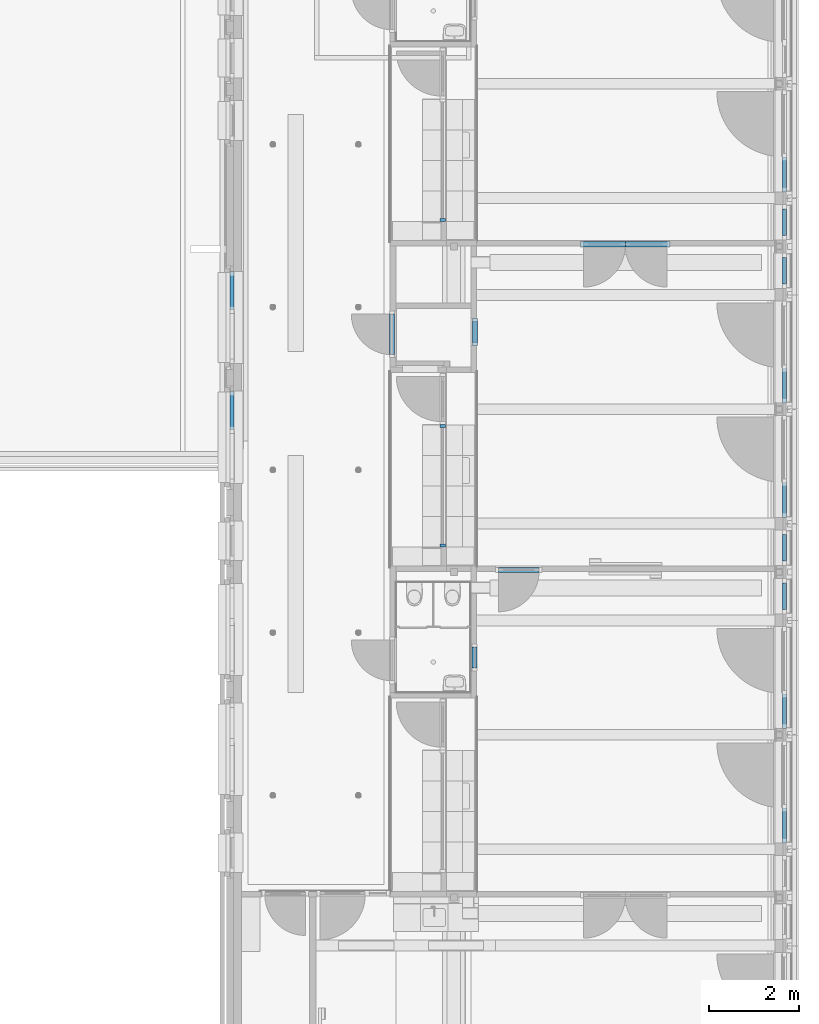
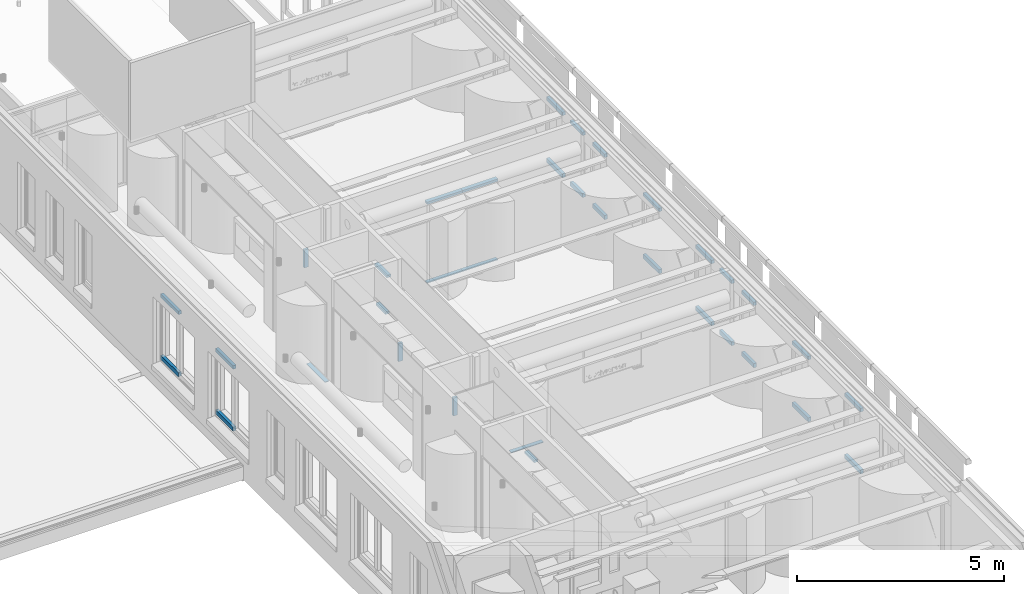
# One storey, part 25 of 128: 34 members, 18 elements without a shape of their own.
"""IFC2X3 building model written with IfcOpenShell, lengths in millimetres."""

from ifc_helpers import new_model, entity, si_unit, converted_unit, derived_unit, direction, frame, frame_2d, origin, origin_2d_with_axis, place, context, subcontext, project, spatial, rectangle, extrude, source, transform, mapped, material, type_object, type_shapes, element, aggregate, save


model = new_model("IFC2X3")

# Units and contexts
model_context = context("Model", 3, precision=0.01, world=origin(), true_north=direction((6.123031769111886e-17, 1.0)))
body_context = subcontext(model_context, "Body", "Model", "MODEL_VIEW")
ifc_project = project(units=[si_unit("LENGTHUNIT", "METRE", prefix="MILLI"), si_unit("AREAUNIT", "SQUARE_METRE"), si_unit("VOLUMEUNIT", "CUBIC_METRE"), converted_unit("PLANEANGLEUNIT", "DEGREE", entity("IfcRatioMeasure", 0.017453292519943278), si_unit("PLANEANGLEUNIT", "RADIAN"), dimensions=[0, 0, 0, 0, 0, 0, 0]), si_unit("MASSUNIT", "GRAM", prefix="KILO"), derived_unit("MASSDENSITYUNIT", [(si_unit("MASSUNIT", "GRAM", prefix="KILO"), 1), (si_unit("LENGTHUNIT", "METRE"), -3)]), derived_unit("IONCONCENTRATIONUNIT", [(si_unit("MASSUNIT", "GRAM", prefix="KILO"), 1), (si_unit("LENGTHUNIT", "METRE"), -3)]), derived_unit("MOMENTOFINERTIAUNIT", [(si_unit("LENGTHUNIT", "METRE"), 4)]), si_unit("TIMEUNIT", "SECOND"), si_unit("FREQUENCYUNIT", "HERTZ"), si_unit("THERMODYNAMICTEMPERATUREUNIT", "DEGREE_CELSIUS"), derived_unit("THERMALTRANSMITTANCEUNIT", [(si_unit("MASSUNIT", "GRAM", prefix="KILO"), 1), (si_unit("THERMODYNAMICTEMPERATUREUNIT", "KELVIN"), -1), (si_unit("TIMEUNIT", "SECOND"), -3)]), derived_unit("THERMALCONDUCTANCEUNIT", [(si_unit("MASSUNIT", "GRAM", prefix="KILO"), 1), (si_unit("THERMODYNAMICTEMPERATUREUNIT", "KELVIN"), -1), (si_unit("TIMEUNIT", "SECOND"), -3), (si_unit("LENGTHUNIT", "METRE"), 1)]), derived_unit("VOLUMETRICFLOWRATEUNIT", [(si_unit("LENGTHUNIT", "METRE"), 3), (si_unit("TIMEUNIT", "SECOND"), -1)]), derived_unit("MASSFLOWRATEUNIT", [(si_unit("MASSUNIT", "GRAM", prefix="KILO"), 1), (si_unit("TIMEUNIT", "SECOND"), -1)]), derived_unit("ROTATIONALFREQUENCYUNIT", [(si_unit("TIMEUNIT", "SECOND"), -1)]), si_unit("ELECTRICCURRENTUNIT", "AMPERE"), si_unit("ELECTRICVOLTAGEUNIT", "VOLT"), si_unit("POWERUNIT", "WATT"), si_unit("FORCEUNIT", "NEWTON", prefix="KILO"), si_unit("ILLUMINANCEUNIT", "LUX"), si_unit("LUMINOUSFLUXUNIT", "LUMEN"), si_unit("LUMINOUSINTENSITYUNIT", "CANDELA"), derived_unit("USERDEFINED", [(si_unit("MASSUNIT", "GRAM", prefix="KILO"), -1), (si_unit("LENGTHUNIT", "METRE"), -2), (si_unit("TIMEUNIT", "SECOND"), 3), (si_unit("LUMINOUSFLUXUNIT", "LUMEN"), 1)]), derived_unit("USERDEFINED", [(si_unit("MASSUNIT", "GRAM", prefix="KILO"), 1), (si_unit("TIMEUNIT", "SECOND"), -3), (si_unit("LENGTHUNIT", "METRE"), 3), (si_unit("ELECTRICCURRENTUNIT", "AMPERE"), -2)]), derived_unit("SOUNDPOWERUNIT", [(si_unit("MASSUNIT", "GRAM", prefix="KILO"), 1), (si_unit("TIMEUNIT", "SECOND"), -3), (si_unit("LENGTHUNIT", "METRE"), 2)]), derived_unit("SOUNDPRESSUREUNIT", [(si_unit("MASSUNIT", "GRAM", prefix="KILO"), 1), (si_unit("LENGTHUNIT", "METRE"), -1), (si_unit("TIMEUNIT", "SECOND"), -2)]), derived_unit("LINEARVELOCITYUNIT", [(si_unit("LENGTHUNIT", "METRE"), 1), (si_unit("TIMEUNIT", "SECOND"), -1)]), si_unit("PRESSUREUNIT", "PASCAL"), derived_unit("USERDEFINED", [(si_unit("MASSUNIT", "GRAM", prefix="KILO"), 1), (si_unit("LENGTHUNIT", "METRE"), -2), (si_unit("TIMEUNIT", "SECOND"), -2)]), derived_unit("LINEARFORCEUNIT", [(si_unit("MASSUNIT", "GRAM", prefix="KILO"), 1), (si_unit("TIMEUNIT", "SECOND"), -2)]), derived_unit("PLANARFORCEUNIT", [(si_unit("MASSUNIT", "GRAM", prefix="KILO"), 1), (si_unit("LENGTHUNIT", "METRE"), -1), (si_unit("TIMEUNIT", "SECOND"), -2)]), derived_unit("SPECIFICHEATCAPACITYUNIT", [(si_unit("THERMODYNAMICTEMPERATUREUNIT", "KELVIN"), -1), (si_unit("LENGTHUNIT", "METRE"), 2), (si_unit("TIMEUNIT", "SECOND"), -2)]), derived_unit("HEATINGVALUEUNIT", [(si_unit("LENGTHUNIT", "METRE"), 2), (si_unit("TIMEUNIT", "SECOND"), -2)]), derived_unit("VAPORPERMEABILITYUNIT", [(si_unit("LENGTHUNIT", "METRE"), -1), (si_unit("TIMEUNIT", "SECOND"), 1)]), derived_unit("DYNAMICVISCOSITYUNIT", [(si_unit("MASSUNIT", "GRAM", prefix="KILO"), 1), (si_unit("TIMEUNIT", "SECOND"), -1), (si_unit("LENGTHUNIT", "METRE"), -1)]), derived_unit("THERMALEXPANSIONCOEFFICIENTUNIT", [(si_unit("THERMODYNAMICTEMPERATUREUNIT", "KELVIN"), -1)]), derived_unit("MODULUSOFELASTICITYUNIT", [(si_unit("MASSUNIT", "GRAM", prefix="KILO"), 1), (si_unit("LENGTHUNIT", "METRE"), -1), (si_unit("TIMEUNIT", "SECOND"), -2)]), derived_unit("ISOTHERMALMOISTURECAPACITYUNIT", [(si_unit("LENGTHUNIT", "METRE"), 3), (si_unit("MASSUNIT", "GRAM", prefix="KILO"), -1)]), derived_unit("MOISTUREDIFFUSIVITYUNIT", [(si_unit("TIMEUNIT", "SECOND"), -1), (si_unit("LENGTHUNIT", "METRE"), 2)])], contexts=[model_context])

# Site, building, storey
site_placement = place(None, frame((0.0, 300.0, 0.0)))
site = spatial("IfcSite", under=ifc_project, at=site_placement, Name="<Kadastrale nummers>", CompositionType="ELEMENT")
building_placement = place(site_placement, origin())
building = spatial("IfcBuilding", under=site, at=building_placement, CompositionType="ELEMENT")
storey_placement = place(building_placement, frame((0.0, 0.0, 3560.0000331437)))
storey = spatial("IfcBuildingStorey", under=building, at=storey_placement, Name="01 eerste verdieping", CompositionType="ELEMENT", Elevation=3560.0000331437)

# Curtain wall, member
curtain_wall_type_1 = type_object("IfcCurtainWallType", Name="Curtain Wall:Merk H01", PredefinedType="NOTDEFINED")
curtain_wall_1_placement = place(storey_placement, frame((0.0, 0.0, -3560.0000331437)))
curtain_wall_1 = element("IfcCurtainWall", 1, at=curtain_wall_1_placement, inside=storey, type_object=curtain_wall_type_1, Name="Curtain Wall:Merk H01", ObjectType="Curtain Wall:Merk H01")
ifc_material_1 = material(Name="ISR_Kunststof_grijs")
member_type_1 = type_object("IfcMemberType", Name="Rectangular Mullion:31_CWM_020x114", PredefinedType="MULLION", material=ifc_material_1)
shared_shape_1 = source(origin(), body_context, "Body", "SweptSolid", [
    extrude(rectangle(XDim=113.99999999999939, YDim=20.0, at=origin_2d_with_axis()), frame((-10.0, -57.0, -900.0), z_axis=(0.0, 0.0, 1.0), x_axis=(0.0, -1.0, 0.0)), (0.0, 0.0, 1.0), 899.999999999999),
])
type_shapes(member_type_1, [shared_shape_1])
member_1_placement = place(curtain_wall_1_placement, frame((40084.0, 21306.997246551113, 3650.00003501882), z_axis=(0.0, -1.0, 0.0), x_axis=(0.0, 0.0, -1.0)))
member_1 = element("IfcMember", 2, at=member_1_placement, type_object=member_type_1, material=ifc_material_1, Name="Rectangular Mullion:31_CWM_020x114", ObjectType="Rectangular Mullion:31_CWM_020x114", context=body_context, shape_type="MappedRepresentation", body=[
    mapped(shared_shape_1, transform((0.0, 0.0, 0.0), scale=1.0)),
])
aggregate(curtain_wall_1, [member_1])

curtain_wall_type_2 = type_object("IfcCurtainWallType", Name="Curtain Wall:Merk H16", PredefinedType="NOTDEFINED")
curtain_wall_2_placement = place(storey_placement, frame((0.0, 0.0, -3560.0000331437)))
curtain_wall_2 = element("IfcCurtainWall", 3, at=curtain_wall_2_placement, inside=storey, type_object=curtain_wall_type_2, Name="Curtain Wall:Merk H16", ObjectType="Curtain Wall:Merk H16")
member_2_placement = place(curtain_wall_2_placement, frame((43284.50000000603, 16603.998623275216, 3650.000035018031), z_axis=(1.0, 0.0, 0.0), x_axis=(0.0, 0.0, -1.0)))
member_2 = element("IfcMember", 4, at=member_2_placement, type_object=member_type_1, material=ifc_material_1, Name="Rectangular Mullion:31_CWM_020x114", ObjectType="Rectangular Mullion:31_CWM_020x114", context=body_context, shape_type="MappedRepresentation", body=[
    mapped(shared_shape_1, transform((0.0, 0.0, 0.0), scale=1.0)),
])
aggregate(curtain_wall_2, [member_2])

# Curtain wall, members
curtain_wall_type_3 = type_object("IfcCurtainWallType", Name="Curtain Wall:Merk H07", PredefinedType="NOTDEFINED")
curtain_wall_3_placement = place(storey_placement, frame((0.0, 0.0, -3560.0000331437)))
curtain_wall_3 = element("IfcCurtainWall", 5, at=curtain_wall_3_placement, inside=storey, type_object=curtain_wall_type_3, Name="Curtain Wall:Merk H07", ObjectType="Curtain Wall:Merk H07")
ifc_material_2 = material(Name="ISR_HPL")
member_type_2 = type_object("IfcMemberType", Name="Rectangular Mullion:31_CWM_067x114", PredefinedType="MULLION", material=ifc_material_2)
shared_shape_2 = source(origin(), body_context, "Body", "SweptSolid", [
    extrude(rectangle(XDim=113.99999999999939, YDim=67.0, at=origin_2d_with_axis()), frame((-33.5, 57.0, -990.0), z_axis=(0.0, 0.0, 1.0), x_axis=(0.0, -1.0, 0.0)), (0.0, 0.0, 1.0), 989.9999999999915),
])
type_shapes(member_type_2, [shared_shape_2])
member_3_placement = place(curtain_wall_3_placement, frame((46180.0, 23808.99862327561, 6040.0000331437), z_axis=(1.0, 0.0, 0.0), x_axis=(0.0, 0.0, 1.0)))
member_3 = element("IfcMember", 6, at=member_3_placement, type_object=member_type_2, material=ifc_material_2, Name="Rectangular Mullion:31_CWM_067x114", ObjectType="Rectangular Mullion:31_CWM_067x114", context=body_context, shape_type="MappedRepresentation", body=[
    mapped(shared_shape_2, transform((0.0, 0.0, 0.0), scale=1.0)),
])
member_type_3 = type_object("IfcMemberType", Name="Rectangular Mullion:31_CWM_020x114", PredefinedType="MULLION", material=ifc_material_1)
shared_shape_3 = source(origin(), body_context, "Body", "SweptSolid", [
    extrude(rectangle(XDim=113.99999999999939, YDim=20.0, at=origin_2d_with_axis()), frame((-10.0, 57.0, -990.0), z_axis=(0.0, 0.0, 1.0), x_axis=(0.0, -1.0, 0.0)), (0.0, 0.0, 1.0), 990.0000000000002),
])
type_shapes(member_type_3, [shared_shape_3])
member_4_placement = place(curtain_wall_3_placement, frame((44200.0, 23808.998623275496, 3650.000035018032), z_axis=(-1.0, 0.0, 0.0), x_axis=(0.0, 0.0, -1.0)))
member_4 = element("IfcMember", 7, at=member_4_placement, type_object=member_type_3, material=ifc_material_1, Name="Rectangular Mullion:31_CWM_020x114", ObjectType="Rectangular Mullion:31_CWM_020x114", context=body_context, shape_type="MappedRepresentation", body=[
    mapped(shared_shape_3, transform((0.0, 0.0, 0.0), scale=1.0)),
])
member_type_4 = type_object("IfcMemberType", Name="Rectangular Mullion:31_CWM_067x114", PredefinedType="MULLION", material=ifc_material_2)
shared_shape_4 = source(origin(), body_context, "Body", "SweptSolid", [
    extrude(rectangle(XDim=113.99999999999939, YDim=67.0, at=origin_2d_with_axis()), frame((-33.5, 57.0, -990.0), z_axis=(0.0, 0.0, 1.0), x_axis=(0.0, -1.0, 0.0)), (0.0, 0.0, 1.0), 989.9999999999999),
])
type_shapes(member_type_4, [shared_shape_4])
member_5_placement = place(curtain_wall_3_placement, frame((45190.0, 23808.998623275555, 6040.0000331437), z_axis=(1.0, 0.0, 0.0), x_axis=(0.0, 0.0, 1.0)))
member_5 = element("IfcMember", 8, at=member_5_placement, type_object=member_type_4, material=ifc_material_2, Name="Rectangular Mullion:31_CWM_067x114", ObjectType="Rectangular Mullion:31_CWM_067x114", context=body_context, shape_type="MappedRepresentation", body=[
    mapped(shared_shape_4, transform((0.0, 0.0, 0.0), scale=1.0)),
])
member_type_5 = type_object("IfcMemberType", Name="Rectangular Mullion:31_CWM_020x114", PredefinedType="MULLION", material=ifc_material_1)
shared_shape_5 = source(origin(), body_context, "Body", "SweptSolid", [
    extrude(rectangle(XDim=113.99999999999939, YDim=20.0, at=origin_2d_with_axis()), frame((-10.0, 57.0, -990.0), z_axis=(0.0, 0.0, 1.0), x_axis=(0.0, -1.0, 0.0)), (0.0, 0.0, 1.0), 989.9999999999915),
])
type_shapes(member_type_5, [shared_shape_5])
member_6_placement = place(curtain_wall_3_placement, frame((45190.0, 23808.998623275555, 3650.000035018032), z_axis=(-1.0, 0.0, 0.0), x_axis=(0.0, 0.0, -1.0)))
member_6 = element("IfcMember", 9, at=member_6_placement, type_object=member_type_5, material=ifc_material_1, Name="Rectangular Mullion:31_CWM_020x114", ObjectType="Rectangular Mullion:31_CWM_020x114", context=body_context, shape_type="MappedRepresentation", body=[
    mapped(shared_shape_5, transform((0.0, 0.0, 0.0), scale=1.0)),
])
aggregate(curtain_wall_3, [member_3, member_4, member_5, member_6])

# Curtain wall, member
curtain_wall_type_4 = type_object("IfcCurtainWallType", Name="Curtain Wall:Merk H08", PredefinedType="NOTDEFINED")
curtain_wall_4_placement = place(storey_placement, frame((0.0, 0.0, -3560.0000331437)))
curtain_wall_4 = element("IfcCurtainWall", 10, at=curtain_wall_4_placement, inside=storey, type_object=curtain_wall_type_4, Name="Curtain Wall:Merk H08", ObjectType="Curtain Wall:Merk H08")
member_type_6 = type_object("IfcMemberType", Name="Rectangular Mullion:31_CWM_067x114", PredefinedType="MULLION", material=ifc_material_2)
shared_shape_6 = source(origin(), body_context, "Body", "SweptSolid", [
    extrude(rectangle(XDim=113.99999999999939, YDim=67.0, at=origin_2d_with_axis()), frame((-33.5, -57.0, -533.0), z_axis=(0.0, 0.0, 1.0), x_axis=(0.0, -1.0, 0.0)), (0.0, 0.0, 1.0), 533.0000000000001),
])
type_shapes(member_type_6, [shared_shape_6])
member_7_placement = place(curtain_wall_4_placement, frame((41209.0, 19760.997246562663, 4850.0000331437), z_axis=(0.0, 0.0, -1.0), x_axis=(0.0, 1.0, 0.0)))
member_7 = element("IfcMember", 11, at=member_7_placement, type_object=member_type_6, material=ifc_material_2, Name="Rectangular Mullion:31_CWM_067x114", ObjectType="Rectangular Mullion:31_CWM_067x114", context=body_context, shape_type="MappedRepresentation", body=[
    mapped(shared_shape_6, transform((0.0, 0.0, 0.0), scale=1.0)),
])

curtain_wall_5_placement = place(storey_placement, frame((0.0, 0.0, -3560.0000331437)))
curtain_wall_5 = element("IfcCurtainWall", 12, at=curtain_wall_5_placement, inside=storey, type_object=curtain_wall_type_4, Name="Curtain Wall:Merk H08", ObjectType="Curtain Wall:Merk H08")
member_type_7 = type_object("IfcMemberType", Name="Rectangular Mullion:31_CWM_067x114", PredefinedType="MULLION", material=ifc_material_2)
shared_shape_7 = source(origin(), body_context, "Body", "SweptSolid", [
    extrude(rectangle(XDim=113.9999999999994, YDim=67.0, at=frame_2d((1.0658141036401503e-14, 0.0), x_axis=(1.0, 0.0))), frame((-33.5, -57.0, -533.0), z_axis=(0.0, 0.0, 1.0), x_axis=(0.0, -1.0, 0.0)), (0.0, 0.0, 1.0), 533.0000000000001),
])
type_shapes(member_type_7, [shared_shape_7])
member_8_placement = place(curtain_wall_5_placement, frame((41209.0, 24250.99862328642, 5383.0000331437), z_axis=(0.0, 0.0, 1.0), x_axis=(0.0, -1.0, 0.0)))
member_8 = element("IfcMember", 13, at=member_8_placement, type_object=member_type_7, material=ifc_material_2, Name="Rectangular Mullion:31_CWM_067x114", ObjectType="Rectangular Mullion:31_CWM_067x114", context=body_context, shape_type="MappedRepresentation", body=[
    mapped(shared_shape_7, transform((0.0, 0.0, 0.0), scale=1.0)),
])
aggregate(curtain_wall_5, [member_8])

# Member
member_9_placement = place(curtain_wall_4_placement, frame((41209.0, 17050.997246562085, 5383.0000331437), z_axis=(0.0, 0.0, 1.0), x_axis=(0.0, -1.0, 0.0)))
member_9 = element("IfcMember", 14, at=member_9_placement, type_object=member_type_7, material=ifc_material_2, Name="Rectangular Mullion:31_CWM_067x114", ObjectType="Rectangular Mullion:31_CWM_067x114", context=body_context, shape_type="MappedRepresentation", body=[
    mapped(shared_shape_7, transform((0.0, 0.0, 0.0), scale=1.0)),
])

aggregate(curtain_wall_4, [member_7, member_9])

# Curtain wall, members
curtain_wall_type_5 = type_object("IfcCurtainWallType", Name="Curtain Wall:Merk H05", PredefinedType="NOTDEFINED")
curtain_wall_6_placement = place(storey_placement, frame((0.0, 0.0, -3560.0000331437)))
curtain_wall_6 = element("IfcCurtainWall", 15, at=curtain_wall_6_placement, inside=storey, type_object=curtain_wall_type_5, Name="Curtain Wall:Merk H05", ObjectType="Curtain Wall:Merk H05")
member_type_8 = type_object("IfcMemberType", Name="Rectangular Mullion:31_CWM_067x114", PredefinedType="MULLION", material=ifc_material_2)
shared_shape_8 = source(origin(), body_context, "Body", "SweptSolid", [
    extrude(rectangle(XDim=113.99999999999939, YDim=67.0, at=origin_2d_with_axis()), frame((-33.5, 57.0, -600.0), z_axis=(0.0, 0.0, 1.0), x_axis=(0.0, -1.0, 0.0)), (0.0, 0.0, 1.0), 600.0000000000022),
])
type_shapes(member_type_8, [shared_shape_8])
member_10_placement = place(curtain_wall_6_placement, frame((41811.0, 22109.997246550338, 6040.0000331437), z_axis=(0.0, 1.0, 0.0), x_axis=(0.0, 0.0, 1.0)))
member_10 = element("IfcMember", 16, at=member_10_placement, type_object=member_type_8, material=ifc_material_2, Name="Rectangular Mullion:31_CWM_067x114", ObjectType="Rectangular Mullion:31_CWM_067x114", context=body_context, shape_type="MappedRepresentation", body=[
    mapped(shared_shape_8, transform((0.0, 0.0, 0.0), scale=1.0)),
])
member_type_9 = type_object("IfcMemberType", Name="Rectangular Mullion:31_CWM_067x114", PredefinedType="MULLION", material=ifc_material_2)
shared_shape_9 = source(origin(), body_context, "Body", "SweptSolid", [
    extrude(rectangle(XDim=113.99999999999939, YDim=67.0, at=origin_2d_with_axis()), frame((-33.5, 57.0, -466.0), z_axis=(0.0, 0.0, 1.0), x_axis=(0.0, -1.0, 0.0)), (0.0, 0.0, 1.0), 466.00000000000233),
])
type_shapes(member_type_9, [shared_shape_9])
member_11_placement = place(curtain_wall_6_placement, frame((41811.0, 21576.997246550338, 4850.0000331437), z_axis=(0.0, -1.0, 0.0), x_axis=(0.0, 0.0, -1.0)))
member_11 = element("IfcMember", 17, at=member_11_placement, type_object=member_type_9, material=ifc_material_2, Name="Rectangular Mullion:31_CWM_067x114", ObjectType="Rectangular Mullion:31_CWM_067x114", context=body_context, shape_type="MappedRepresentation", body=[
    mapped(shared_shape_9, transform((0.0, 0.0, 0.0), scale=1.0)),
])
aggregate(curtain_wall_6, [member_10, member_11])

# Curtain wall, member
curtain_wall_7_placement = place(storey_placement, frame((0.0, 0.0, -3560.0000331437)))
curtain_wall_7 = element("IfcCurtainWall", 18, at=curtain_wall_7_placement, inside=storey, type_object=curtain_wall_type_5, Name="Curtain Wall:Merk H05", ObjectType="Curtain Wall:Merk H05")
member_12_placement = place(curtain_wall_7_placement, frame((41801.0, 14376.998623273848, 4850.0000331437), z_axis=(0.0, -1.0, 0.0), x_axis=(0.0, 0.0, -1.0)))
member_12 = element("IfcMember", 19, at=member_12_placement, type_object=member_type_9, material=ifc_material_2, Name="Rectangular Mullion:31_CWM_067x114", ObjectType="Rectangular Mullion:31_CWM_067x114", context=body_context, shape_type="MappedRepresentation", body=[
    mapped(shared_shape_9, transform((0.0, 0.0, 0.0), scale=1.0)),
])
aggregate(curtain_wall_7, [member_12])

curtain_wall_type_6 = type_object("IfcCurtainWallType", Name="Curtain Wall:K_29", PredefinedType="NOTDEFINED")
curtain_wall_8_placement = place(storey_placement, frame((0.0, 0.0, -3560.0000331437)))
curtain_wall_8 = element("IfcCurtainWall", 20, at=curtain_wall_8_placement, inside=storey, type_object=curtain_wall_type_6, Name="Curtain Wall:K_29", ObjectType="Curtain Wall:K_29")
ifc_material_3 = material(Name="ISR_Kunststof_RAL7006")
member_type_10 = type_object("IfcMemberType", Name="Rectangular Mullion:100x83 Gealan Kubus", PredefinedType="MULLION", material=ifc_material_3)
shared_shape_10 = source(origin(), body_context, "Body", "SweptSolid", [
    extrude(rectangle(XDim=83.0, YDim=100.0, at=origin_2d_with_axis()), frame((-50.0, 41.5, -590.0), z_axis=(0.0, 0.0, 1.0), x_axis=(0.0, -1.0, 0.0)), (0.0, 0.0, 1.0), 590.0000000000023),
])
type_shapes(member_type_10, [shared_shape_10])
member_13_placement = place(curtain_wall_8_placement, frame((48668.0, 24530.0, 6390.0), z_axis=(0.0, 1.0, 0.0), x_axis=(0.0, 0.0, 1.0)))
member_13 = element("IfcMember", 21, at=member_13_placement, type_object=member_type_10, material=ifc_material_3, Name="Rectangular Mullion:100x83 Gealan Kubus", ObjectType="Rectangular Mullion:100x83 Gealan Kubus", context=body_context, shape_type="MappedRepresentation", body=[
    mapped(shared_shape_10, transform((0.0, 0.0, 0.0), scale=1.0)),
])

curtain_wall_9_placement = place(storey_placement, frame((0.0, 0.0, -3560.0000331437)))
curtain_wall_9 = element("IfcCurtainWall", 22, at=curtain_wall_9_placement, inside=storey, type_object=curtain_wall_type_6, Name="Curtain Wall:K_29", ObjectType="Curtain Wall:K_29")
member_14_placement = place(curtain_wall_9_placement, frame((48668.0, 23460.0, 6390.0), z_axis=(0.0, 1.0, 0.0), x_axis=(0.0, 0.0, 1.0)))
member_14 = element("IfcMember", 23, at=member_14_placement, type_object=member_type_10, material=ifc_material_3, Name="Rectangular Mullion:100x83 Gealan Kubus", ObjectType="Rectangular Mullion:100x83 Gealan Kubus", context=body_context, shape_type="MappedRepresentation", body=[
    mapped(shared_shape_10, transform((0.0, 0.0, 0.0), scale=1.0)),
])

curtain_wall_10_placement = place(storey_placement, frame((0.0, 0.0, -3560.0000331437)))
curtain_wall_10 = element("IfcCurtainWall", 24, at=curtain_wall_10_placement, inside=storey, type_object=curtain_wall_type_6, Name="Curtain Wall:K_29", ObjectType="Curtain Wall:K_29")
member_15_placement = place(curtain_wall_10_placement, frame((48668.0, 17330.0, 6390.0), z_axis=(0.0, 1.0, 0.0), x_axis=(0.0, 0.0, 1.0)))
member_15 = element("IfcMember", 25, at=member_15_placement, type_object=member_type_10, material=ifc_material_3, Name="Rectangular Mullion:100x83 Gealan Kubus", ObjectType="Rectangular Mullion:100x83 Gealan Kubus", context=body_context, shape_type="MappedRepresentation", body=[
    mapped(shared_shape_10, transform((0.0, 0.0, 0.0), scale=1.0)),
])

curtain_wall_11_placement = place(storey_placement, frame((0.0, 0.0, -3560.0000331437)))
curtain_wall_11 = element("IfcCurtainWall", 26, at=curtain_wall_11_placement, inside=storey, type_object=curtain_wall_type_6, Name="Curtain Wall:K_29", ObjectType="Curtain Wall:K_29")
member_16_placement = place(curtain_wall_11_placement, frame((48668.0, 16260.0, 6390.0), z_axis=(0.0, 1.0, 0.0), x_axis=(0.0, 0.0, 1.0)))
member_16 = element("IfcMember", 27, at=member_16_placement, type_object=member_type_10, material=ifc_material_3, Name="Rectangular Mullion:100x83 Gealan Kubus", ObjectType="Rectangular Mullion:100x83 Gealan Kubus", context=body_context, shape_type="MappedRepresentation", body=[
    mapped(shared_shape_10, transform((0.0, 0.0, 0.0), scale=1.0)),
])

# Member
member_type_11 = type_object("IfcMemberType", Name="Rectangular Mullion:120x83 Gealan Kubus", PredefinedType="MULLION", material=ifc_material_3)
shared_shape_11 = source(origin(), body_context, "Body", "SweptSolid", [
    extrude(rectangle(XDim=83.00000000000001, YDim=120.0, at=origin_2d_with_axis()), frame((-60.0, 41.50000000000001, -590.0), z_axis=(0.0, 0.0, 1.0), x_axis=(0.0, -1.0, 0.0)), (0.0, 0.0, 1.0), 590.0000000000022),
])
type_shapes(member_type_11, [shared_shape_11])
member_17_placement = place(curtain_wall_8_placement, frame((48668.0, 23940.0, 4460.000035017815), z_axis=(0.0, -1.0, 0.0), x_axis=(0.0, 0.0, -1.0)))
member_17 = element("IfcMember", 28, at=member_17_placement, type_object=member_type_11, material=ifc_material_3, Name="Rectangular Mullion:120x83 Gealan Kubus", ObjectType="Rectangular Mullion:120x83 Gealan Kubus", context=body_context, shape_type="MappedRepresentation", body=[
    mapped(shared_shape_11, transform((0.0, 0.0, 0.0), scale=1.0)),
])

aggregate(curtain_wall_8, [member_13, member_17])

member_18_placement = place(curtain_wall_9_placement, frame((48668.0, 22870.0, 4460.000035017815), z_axis=(0.0, -1.0, 0.0), x_axis=(0.0, 0.0, -1.0)))
member_18 = element("IfcMember", 29, at=member_18_placement, type_object=member_type_11, material=ifc_material_3, Name="Rectangular Mullion:120x83 Gealan Kubus", ObjectType="Rectangular Mullion:120x83 Gealan Kubus", context=body_context, shape_type="MappedRepresentation", body=[
    mapped(shared_shape_11, transform((0.0, 0.0, 0.0), scale=1.0)),
])

aggregate(curtain_wall_9, [member_14, member_18])

member_19_placement = place(curtain_wall_10_placement, frame((48668.0, 16740.0, 4460.000035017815), z_axis=(0.0, -1.0, 0.0), x_axis=(0.0, 0.0, -1.0)))
member_19 = element("IfcMember", 30, at=member_19_placement, type_object=member_type_11, material=ifc_material_3, Name="Rectangular Mullion:120x83 Gealan Kubus", ObjectType="Rectangular Mullion:120x83 Gealan Kubus", context=body_context, shape_type="MappedRepresentation", body=[
    mapped(shared_shape_11, transform((0.0, 0.0, 0.0), scale=1.0)),
])

aggregate(curtain_wall_10, [member_15, member_19])

member_20_placement = place(curtain_wall_11_placement, frame((48668.0, 15670.0, 4460.000035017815), z_axis=(0.0, -1.0, 0.0), x_axis=(0.0, 0.0, -1.0)))
member_20 = element("IfcMember", 31, at=member_20_placement, type_object=member_type_11, material=ifc_material_3, Name="Rectangular Mullion:120x83 Gealan Kubus", ObjectType="Rectangular Mullion:120x83 Gealan Kubus", context=body_context, shape_type="MappedRepresentation", body=[
    mapped(shared_shape_11, transform((0.0, 0.0, 0.0), scale=1.0)),
])

aggregate(curtain_wall_11, [member_16, member_20])

# Curtain wall, member
curtain_wall_type_7 = type_object("IfcCurtainWallType", Name="Curtain Wall:K_22", PredefinedType="NOTDEFINED")
curtain_wall_12_placement = place(storey_placement, frame((0.0, 0.0, -3560.0000331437)))
curtain_wall_12 = element("IfcCurtainWall", 32, at=curtain_wall_12_placement, inside=storey, type_object=curtain_wall_type_7, Name="Curtain Wall:K_22", ObjectType="Curtain Wall:K_22")
member_type_12 = type_object("IfcMemberType", Name="Rectangular Mullion:120x83 Gealan Kubus", PredefinedType="MULLION", material=ifc_material_3)
shared_shape_12 = source(origin(), body_context, "Body", "SweptSolid", [
    extrude(rectangle(XDim=83.00000000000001, YDim=120.0, at=origin_2d_with_axis()), frame((-60.0, 41.50000000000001, -767.0), z_axis=(0.0, 0.0, 1.0), x_axis=(0.0, -1.0, 0.0)), (0.0, 0.0, 1.0), 766.9999999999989),
])
type_shapes(member_type_12, [shared_shape_12])
member_21_placement = place(curtain_wall_12_placement, frame((48668.0, 24910.0, 4460.000035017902), z_axis=(0.0, -1.0, 0.0), x_axis=(0.0, 0.0, -1.0)))
member_21 = element("IfcMember", 33, at=member_21_placement, type_object=member_type_12, material=ifc_material_3, Name="Rectangular Mullion:120x83 Gealan Kubus", ObjectType="Rectangular Mullion:120x83 Gealan Kubus", context=body_context, shape_type="MappedRepresentation", body=[
    mapped(shared_shape_12, transform((0.0, 0.0, 0.0), scale=1.0)),
])

curtain_wall_13_placement = place(storey_placement, frame((0.0, 0.0, -3560.0000331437)))
curtain_wall_13 = element("IfcCurtainWall", 34, at=curtain_wall_13_placement, inside=storey, type_object=curtain_wall_type_7, Name="Curtain Wall:K_22", ObjectType="Curtain Wall:K_22")
member_22_placement = place(curtain_wall_13_placement, frame((48668.0, 20240.0, 4460.000035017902), z_axis=(0.0, -1.0, 0.0), x_axis=(0.0, 0.0, -1.0)))
member_22 = element("IfcMember", 35, at=member_22_placement, type_object=member_type_12, material=ifc_material_3, Name="Rectangular Mullion:120x83 Gealan Kubus", ObjectType="Rectangular Mullion:120x83 Gealan Kubus", context=body_context, shape_type="MappedRepresentation", body=[
    mapped(shared_shape_12, transform((0.0, 0.0, 0.0), scale=1.0)),
])

curtain_wall_14_placement = place(storey_placement, frame((0.0, 0.0, -3560.0000331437)))
curtain_wall_14 = element("IfcCurtainWall", 36, at=curtain_wall_14_placement, inside=storey, type_object=curtain_wall_type_7, Name="Curtain Wall:K_22", ObjectType="Curtain Wall:K_22")
member_23_placement = place(curtain_wall_14_placement, frame((48668.0, 17710.0, 4460.000035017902), z_axis=(0.0, -1.0, 0.0), x_axis=(0.0, 0.0, -1.0)))
member_23 = element("IfcMember", 37, at=member_23_placement, type_object=member_type_12, material=ifc_material_3, Name="Rectangular Mullion:120x83 Gealan Kubus", ObjectType="Rectangular Mullion:120x83 Gealan Kubus", context=body_context, shape_type="MappedRepresentation", body=[
    mapped(shared_shape_12, transform((0.0, 0.0, 0.0), scale=1.0)),
])

curtain_wall_15_placement = place(storey_placement, frame((0.0, 0.0, -3560.0000331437)))
curtain_wall_15 = element("IfcCurtainWall", 38, at=curtain_wall_15_placement, inside=storey, type_object=curtain_wall_type_7, Name="Curtain Wall:K_22", ObjectType="Curtain Wall:K_22")
member_24_placement = place(curtain_wall_15_placement, frame((48668.0, 13040.0, 4460.000035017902), z_axis=(0.0, -1.0, 0.0), x_axis=(0.0, 0.0, -1.0)))
member_24 = element("IfcMember", 39, at=member_24_placement, type_object=member_type_12, material=ifc_material_3, Name="Rectangular Mullion:120x83 Gealan Kubus", ObjectType="Rectangular Mullion:120x83 Gealan Kubus", context=body_context, shape_type="MappedRepresentation", body=[
    mapped(shared_shape_12, transform((0.0, 0.0, 0.0), scale=1.0)),
])

curtain_wall_16_placement = place(storey_placement, frame((0.0, 0.0, -3560.0000331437)))
curtain_wall_16 = element("IfcCurtainWall", 40, at=curtain_wall_16_placement, inside=storey, type_object=curtain_wall_type_7, Name="Curtain Wall:K_22", ObjectType="Curtain Wall:K_22")
member_25_placement = place(curtain_wall_16_placement, frame((48668.0, 10510.0, 4460.000035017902), z_axis=(0.0, -1.0, 0.0), x_axis=(0.0, 0.0, -1.0)))
member_25 = element("IfcMember", 41, at=member_25_placement, type_object=member_type_12, material=ifc_material_3, Name="Rectangular Mullion:120x83 Gealan Kubus", ObjectType="Rectangular Mullion:120x83 Gealan Kubus", context=body_context, shape_type="MappedRepresentation", body=[
    mapped(shared_shape_12, transform((0.0, 0.0, 0.0), scale=1.0)),
])

# Member
member_type_13 = type_object("IfcMemberType", Name="Rectangular Mullion:100x83 Gealan Kubus", PredefinedType="MULLION", material=ifc_material_3)
shared_shape_13 = source(origin(), body_context, "Body", "SweptSolid", [
    extrude(rectangle(XDim=83.0, YDim=100.0, at=origin_2d_with_axis()), frame((-50.0, 41.5, -767.0), z_axis=(0.0, 0.0, 1.0), x_axis=(0.0, -1.0, 0.0)), (0.0, 0.0, 1.0), 766.9999999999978),
])
type_shapes(member_type_13, [shared_shape_13])
member_26_placement = place(curtain_wall_12_placement, frame((48668.0, 25677.0, 6390.0), z_axis=(0.0, 1.0, 0.0), x_axis=(0.0, 0.0, 1.0)))
member_26 = element("IfcMember", 42, at=member_26_placement, type_object=member_type_13, material=ifc_material_3, Name="Rectangular Mullion:100x83 Gealan Kubus", ObjectType="Rectangular Mullion:100x83 Gealan Kubus", context=body_context, shape_type="MappedRepresentation", body=[
    mapped(shared_shape_13, transform((0.0, 0.0, 0.0), scale=1.0)),
])

aggregate(curtain_wall_12, [member_21, member_26])

member_27_placement = place(curtain_wall_13_placement, frame((48668.0, 21007.0, 6390.0), z_axis=(0.0, 1.0, 0.0), x_axis=(0.0, 0.0, 1.0)))
member_27 = element("IfcMember", 43, at=member_27_placement, type_object=member_type_13, material=ifc_material_3, Name="Rectangular Mullion:100x83 Gealan Kubus", ObjectType="Rectangular Mullion:100x83 Gealan Kubus", context=body_context, shape_type="MappedRepresentation", body=[
    mapped(shared_shape_13, transform((0.0, 0.0, 0.0), scale=1.0)),
])

aggregate(curtain_wall_13, [member_22, member_27])

member_28_placement = place(curtain_wall_14_placement, frame((48668.0, 18477.0, 6390.0), z_axis=(0.0, 1.0, 0.0), x_axis=(0.0, 0.0, 1.0)))
member_28 = element("IfcMember", 44, at=member_28_placement, type_object=member_type_13, material=ifc_material_3, Name="Rectangular Mullion:100x83 Gealan Kubus", ObjectType="Rectangular Mullion:100x83 Gealan Kubus", context=body_context, shape_type="MappedRepresentation", body=[
    mapped(shared_shape_13, transform((0.0, 0.0, 0.0), scale=1.0)),
])

aggregate(curtain_wall_14, [member_23, member_28])

member_29_placement = place(curtain_wall_15_placement, frame((48668.0, 13807.0, 6390.0), z_axis=(0.0, 1.0, 0.0), x_axis=(0.0, 0.0, 1.0)))
member_29 = element("IfcMember", 45, at=member_29_placement, type_object=member_type_13, material=ifc_material_3, Name="Rectangular Mullion:100x83 Gealan Kubus", ObjectType="Rectangular Mullion:100x83 Gealan Kubus", context=body_context, shape_type="MappedRepresentation", body=[
    mapped(shared_shape_13, transform((0.0, 0.0, 0.0), scale=1.0)),
])

aggregate(curtain_wall_15, [member_24, member_29])

member_30_placement = place(curtain_wall_16_placement, frame((48668.0, 11277.0, 6390.0), z_axis=(0.0, 1.0, 0.0), x_axis=(0.0, 0.0, 1.0)))
member_30 = element("IfcMember", 46, at=member_30_placement, type_object=member_type_13, material=ifc_material_3, Name="Rectangular Mullion:100x83 Gealan Kubus", ObjectType="Rectangular Mullion:100x83 Gealan Kubus", context=body_context, shape_type="MappedRepresentation", body=[
    mapped(shared_shape_13, transform((0.0, 0.0, 0.0), scale=1.0)),
])

aggregate(curtain_wall_16, [member_25, member_30])

# Curtain wall, member
curtain_wall_type_8 = type_object("IfcCurtainWallType", Name="Curtain Wall:K_24", PredefinedType="NOTDEFINED")
curtain_wall_17_placement = place(storey_placement, frame((0.0, 0.0, -3560.0000331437)))
curtain_wall_17 = element("IfcCurtainWall", 47, at=curtain_wall_17_placement, inside=storey, type_object=curtain_wall_type_8, Name="Curtain Wall:K_24", ObjectType="Curtain Wall:K_24")
member_type_14 = type_object("IfcMemberType", Name="Rectangular Mullion:120x83 Gealan Kubus", PredefinedType="MULLION", material=ifc_material_3)
shared_shape_14 = source(origin(), body_context, "Body", "SweptSolid", [
    extrude(rectangle(XDim=83.00000000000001, YDim=120.0, at=origin_2d_with_axis()), frame((-60.0, 41.50000000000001, -857.0), z_axis=(0.0, 0.0, 1.0), x_axis=(0.0, -1.0, 0.0)), (0.0, 0.0, 1.0), 857.0),
])
type_shapes(member_type_14, [shared_shape_14])
member_31_placement = place(curtain_wall_17_placement, frame((36531.99862327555, 20500.0, 4460.000035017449), z_axis=(0.0, 1.0, 0.0), x_axis=(0.0, 0.0, -1.0)))
member_31 = element("IfcMember", 48, at=member_31_placement, type_object=member_type_14, material=ifc_material_3, Name="Rectangular Mullion:120x83 Gealan Kubus", ObjectType="Rectangular Mullion:120x83 Gealan Kubus", context=body_context, shape_type="MappedRepresentation", body=[
    mapped(shared_shape_14, transform((0.0, 0.0, 0.0), scale=1.0)),
])

curtain_wall_18_placement = place(storey_placement, frame((0.0, 0.0, -3560.0000331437)))
curtain_wall_18 = element("IfcCurtainWall", 49, at=curtain_wall_18_placement, inside=storey, type_object=curtain_wall_type_8, Name="Curtain Wall:K_24", ObjectType="Curtain Wall:K_24")
member_32_placement = place(curtain_wall_18_placement, frame((36531.998623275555, 23150.0, 4460.000035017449), z_axis=(0.0, 1.0, 0.0), x_axis=(0.0, 0.0, -1.0)))
member_32 = element("IfcMember", 50, at=member_32_placement, type_object=member_type_14, material=ifc_material_3, Name="Rectangular Mullion:120x83 Gealan Kubus", ObjectType="Rectangular Mullion:120x83 Gealan Kubus", context=body_context, shape_type="MappedRepresentation", body=[
    mapped(shared_shape_14, transform((0.0, 0.0, 0.0), scale=1.0)),
])

# Member
member_type_15 = type_object("IfcMemberType", Name="Rectangular Mullion:100x83 Gealan Kubus", PredefinedType="MULLION", material=ifc_material_3)
shared_shape_15 = source(origin(), body_context, "Body", "SweptSolid", [
    extrude(rectangle(XDim=83.0, YDim=100.0, at=origin_2d_with_axis()), frame((-50.0, 41.5, -857.0), z_axis=(0.0, 0.0, 1.0), x_axis=(0.0, -1.0, 0.0)), (0.0, 0.0, 1.0), 857.0000000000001),
])
type_shapes(member_type_15, [shared_shape_15])
member_33_placement = place(curtain_wall_17_placement, frame((36531.998623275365, 19643.0, 6390.000035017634), z_axis=(0.0, -1.0, 0.0), x_axis=(0.0, 0.0, 1.0)))
member_33 = element("IfcMember", 51, at=member_33_placement, type_object=member_type_15, material=ifc_material_3, Name="Rectangular Mullion:100x83 Gealan Kubus", ObjectType="Rectangular Mullion:100x83 Gealan Kubus", context=body_context, shape_type="MappedRepresentation", body=[
    mapped(shared_shape_15, transform((0.0, 0.0, 0.0), scale=1.0)),
])

aggregate(curtain_wall_17, [member_31, member_33])

member_34_placement = place(curtain_wall_18_placement, frame((36531.99862327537, 22293.0, 6390.000035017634), z_axis=(0.0, -1.0, 0.0), x_axis=(0.0, 0.0, 1.0)))
member_34 = element("IfcMember", 52, at=member_34_placement, type_object=member_type_15, material=ifc_material_3, Name="Rectangular Mullion:100x83 Gealan Kubus", ObjectType="Rectangular Mullion:100x83 Gealan Kubus", context=body_context, shape_type="MappedRepresentation", body=[
    mapped(shared_shape_15, transform((0.0, 0.0, 0.0), scale=1.0)),
])

aggregate(curtain_wall_18, [member_32, member_34])

save(model, "model.ifc")
